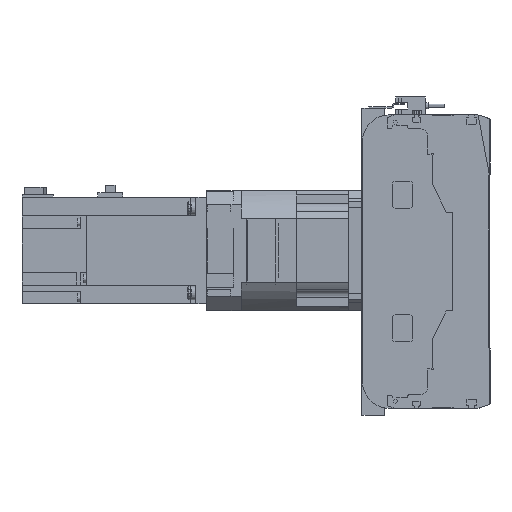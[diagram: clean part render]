
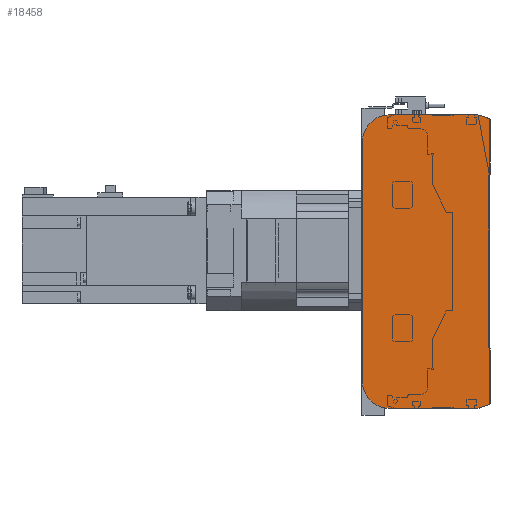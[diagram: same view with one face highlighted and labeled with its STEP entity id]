
A CAD part, left-side view. The second image highlights one B-rep face of the part: STEP entity #18458.
In plain terms, the highlighted planar face has unit normal (-1, 0, 0).
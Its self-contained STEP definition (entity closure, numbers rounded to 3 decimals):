
#1052=CIRCLE('',#20118,20.);
#1053=CIRCLE('',#20121,20.);
#4610=ORIENTED_EDGE('',*,*,#8008,.F.);
#4611=ORIENTED_EDGE('',*,*,#8050,.F.);
#4612=ORIENTED_EDGE('',*,*,#8048,.F.);
#4613=ORIENTED_EDGE('',*,*,#8046,.F.);
#4614=ORIENTED_EDGE('',*,*,#8035,.F.);
#4615=ORIENTED_EDGE('',*,*,#8026,.F.);
#4616=ORIENTED_EDGE('',*,*,#8022,.F.);
#4617=ORIENTED_EDGE('',*,*,#8019,.F.);
#8008=EDGE_CURVE('',#10051,#10052,#11707,.T.);
#8019=EDGE_CURVE('',#10052,#10059,#11718,.T.);
#8022=EDGE_CURVE('',#10059,#10061,#11721,.T.);
#8026=EDGE_CURVE('',#10061,#10062,#11725,.T.);
#8035=EDGE_CURVE('',#10062,#10068,#11734,.T.);
#8046=EDGE_CURVE('',#10068,#10075,#1052,.T.);
#8048=EDGE_CURVE('',#10075,#10076,#11746,.T.);
#8050=EDGE_CURVE('',#10076,#10051,#1053,.T.);
#10051=VERTEX_POINT('',#30484);
#10052=VERTEX_POINT('',#30486);
#10059=VERTEX_POINT('',#30505);
#10061=VERTEX_POINT('',#30511);
#10062=VERTEX_POINT('',#30517);
#10068=VERTEX_POINT('',#30533);
#10075=VERTEX_POINT('',#30552);
#10076=VERTEX_POINT('',#30556);
#11707=LINE('',#30485,#13286);
#11718=LINE('',#30504,#13297);
#11721=LINE('',#30510,#13300);
#11725=LINE('',#30516,#13304);
#11734=LINE('',#30532,#13313);
#11746=LINE('',#30555,#13325);
#13286=VECTOR('',#24377,1000.);
#13297=VECTOR('',#24390,1000.);
#13300=VECTOR('',#24395,1000.);
#13304=VECTOR('',#24401,1000.);
#13313=VECTOR('',#24412,1000.);
#13325=VECTOR('',#24430,1000.);
#14710=EDGE_LOOP('',(#4610,#4611,#4612,#4613,#4614,#4615,#4616,#4617));
#16418=FACE_BOUND('',#14710,.T.);
#17565=PLANE('',#20122);
#18458=ADVANCED_FACE('',(#16418),#17565,.F.);
#20118=AXIS2_PLACEMENT_3D('',#30551,#24425,#24426);
#20121=AXIS2_PLACEMENT_3D('',#30559,#24434,#24435);
#20122=AXIS2_PLACEMENT_3D('',#30560,#24436,#24437);
#24377=DIRECTION('',(0.,-1.,0.));
#24390=DIRECTION('',(0.,-0.945,-0.328));
#24395=DIRECTION('',(0.,0.,-1.));
#24401=DIRECTION('',(0.,0.945,-0.328));
#24412=DIRECTION('',(0.,1.,0.));
#24425=DIRECTION('',(1.,0.,0.));
#24426=DIRECTION('',(0.,0.,-1.));
#24430=DIRECTION('',(0.,0.,1.));
#24434=DIRECTION('',(1.,0.,0.));
#24435=DIRECTION('',(0.,0.,-1.));
#24436=DIRECTION('',(1.,0.,0.));
#24437=DIRECTION('',(0.,0.,-1.));
#30484=CARTESIAN_POINT('',(0.,75.5,110.));
#30485=CARTESIAN_POINT('',(0.,75.5,110.));
#30486=CARTESIAN_POINT('',(0.,9.,110.));
#30504=CARTESIAN_POINT('',(0.,9.,110.));
#30505=CARTESIAN_POINT('',(0.,0.5,107.05));
#30510=CARTESIAN_POINT('',(0.,0.5,107.05));
#30511=CARTESIAN_POINT('',(0.,0.5,-107.05));
#30516=CARTESIAN_POINT('',(0.,0.5,-107.05));
#30517=CARTESIAN_POINT('',(0.,9.,-110.));
#30532=CARTESIAN_POINT('',(0.,9.,-110.));
#30533=CARTESIAN_POINT('',(0.,75.5,-110.));
#30551=CARTESIAN_POINT('',(0.,75.5,-90.));
#30552=CARTESIAN_POINT('',(0.,95.5,-90.));
#30555=CARTESIAN_POINT('',(0.,95.5,-90.));
#30556=CARTESIAN_POINT('',(0.,95.5,90.));
#30559=CARTESIAN_POINT('',(0.,75.5,90.));
#30560=CARTESIAN_POINT('',(0.,75.5,-90.));
